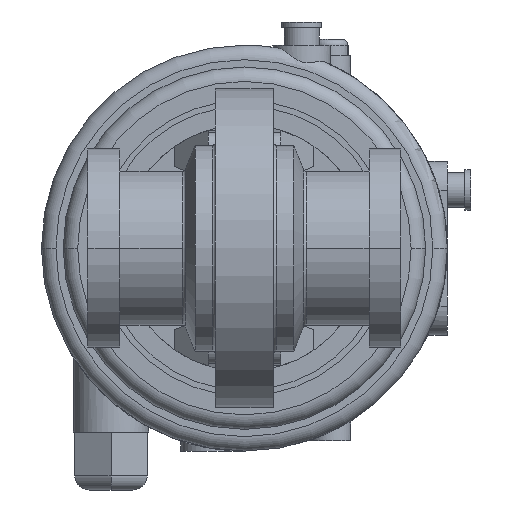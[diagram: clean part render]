
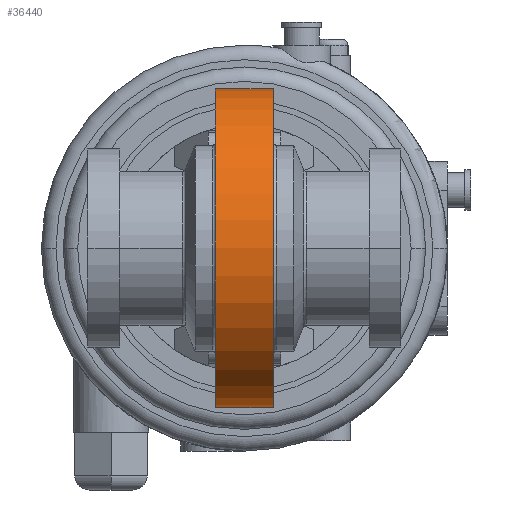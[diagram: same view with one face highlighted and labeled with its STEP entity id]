
A CAD part, front view. The second image highlights one B-rep face of the part: STEP entity #36440.
In plain terms, the highlighted cylindrical face has radius 55 mm (diameter 110 mm), a partial arc.
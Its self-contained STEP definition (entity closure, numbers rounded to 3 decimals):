
#1260=CARTESIAN_POINT('',(67.018,-10.735,0.));
#1270=DIRECTION('',(1.,0.,0.));
#1280=VECTOR('',#1270,1.);
#1290=LINE('',#1260,#1280);
#1300=CARTESIAN_POINT('',(62.018,-10.735,0.));
#1310=VERTEX_POINT('',#1300);
#1320=CARTESIAN_POINT('',(82.018,-10.735,0.));
#1330=VERTEX_POINT('',#1320);
#1340=EDGE_CURVE('',#1310,#1330,#1290,.T.);
#1360=CARTESIAN_POINT('',(62.018,44.265,0.));
#1370=DIRECTION('',(-1.,0.,0.));
#1380=DIRECTION('',(0.,1.,0.));
#1390=AXIS2_PLACEMENT_3D('',#1360,#1370,#1380);
#1400=CIRCLE('',#1390,55.);
#4550=CARTESIAN_POINT('',(82.018,44.265,0.));
#4560=DIRECTION('',(-1.,0.,0.));
#4570=DIRECTION('',(0.,1.,0.));
#4580=AXIS2_PLACEMENT_3D('',#4550,#4560,#4570);
#4590=CIRCLE('',#4580,55.);
#4960=CARTESIAN_POINT('',(62.018,99.265,0.));
#4970=VERTEX_POINT('',#4960);
#4980=EDGE_CURVE('',#4970,#1310,#1400,.T.);
#9150=CARTESIAN_POINT('',(82.018,99.265,0.));
#9160=VERTEX_POINT('',#9150);
#9190=EDGE_CURVE('',#9160,#1330,#4590,.T.);
#36280=CARTESIAN_POINT('',(67.018,44.265,0.));
#36290=DIRECTION('',(1.,0.,0.));
#36300=DIRECTION('',(0.,-1.,0.));
#36310=AXIS2_PLACEMENT_3D('',#36280,#36290,#36300);
#36320=CYLINDRICAL_SURFACE('',#36310,55.);
#36330=ORIENTED_EDGE('',*,*,#9190,.T.);
#36340=CARTESIAN_POINT('',(67.018,99.265,0.));
#36350=DIRECTION('',(1.,0.,0.));
#36360=VECTOR('',#36350,1.);
#36370=LINE('',#36340,#36360);
#36380=EDGE_CURVE('',#4970,#9160,#36370,.T.);
#36390=ORIENTED_EDGE('',*,*,#36380,.T.);
#36400=ORIENTED_EDGE('',*,*,#4980,.F.);
#36410=ORIENTED_EDGE('',*,*,#1340,.F.);
#36420=EDGE_LOOP('',(#36410,#36400,#36390,#36330));
#36430=FACE_OUTER_BOUND('',#36420,.T.);
#36440=ADVANCED_FACE('',(#36430),#36320,.T.);
